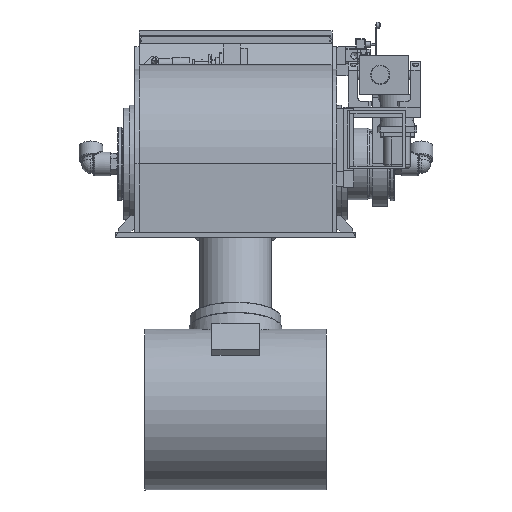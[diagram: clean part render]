
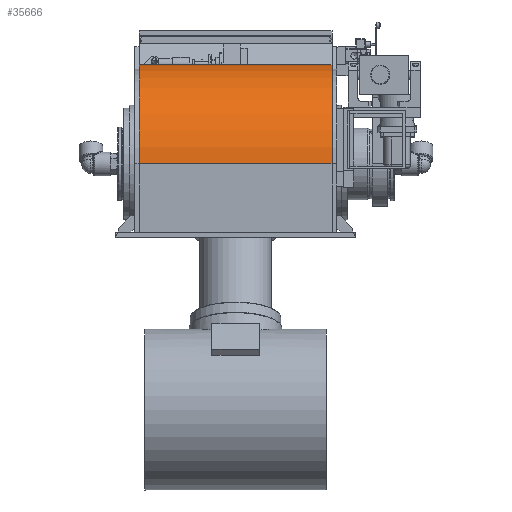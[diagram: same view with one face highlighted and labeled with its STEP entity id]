
A CAD part, front view. The second image highlights one B-rep face of the part: STEP entity #35666.
In plain terms, the highlighted cylindrical face has radius 263 mm (diameter 526 mm), a partial arc.
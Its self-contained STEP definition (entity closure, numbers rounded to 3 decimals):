
#3358=FACE_OUTER_BOUND('',#5551,.T.);
#5551=EDGE_LOOP('',(#27378,#27379,#27380,#27381));
#8054=LINE('',#56224,#11132);
#8055=LINE('',#56228,#11133);
#11132=VECTOR('',#44909,10.);
#11133=VECTOR('',#44912,10.);
#13686=CIRCLE('',#38484,263.);
#13687=CIRCLE('',#38485,263.);
#15809=VERTEX_POINT('',#56222);
#15810=VERTEX_POINT('',#56223);
#15811=VERTEX_POINT('',#56225);
#15812=VERTEX_POINT('',#56227);
#19917=EDGE_CURVE('',#15809,#15810,#8054,.T.);
#19918=EDGE_CURVE('',#15811,#15809,#13686,.T.);
#19919=EDGE_CURVE('',#15811,#15812,#8055,.T.);
#19920=EDGE_CURVE('',#15810,#15812,#13687,.T.);
#27378=ORIENTED_EDGE('',*,*,#19917,.F.);
#27379=ORIENTED_EDGE('',*,*,#19918,.F.);
#27380=ORIENTED_EDGE('',*,*,#19919,.T.);
#27381=ORIENTED_EDGE('',*,*,#19920,.F.);
#32693=CYLINDRICAL_SURFACE('',#38483,263.);
#35666=ADVANCED_FACE('',(#3358),#32693,.T.);
#38483=AXIS2_PLACEMENT_3D('',#56221,#44907,#44908);
#38484=AXIS2_PLACEMENT_3D('',#56226,#44910,#44911);
#38485=AXIS2_PLACEMENT_3D('',#56229,#44913,#44914);
#44907=DIRECTION('center_axis',(-1.,0.,0.));
#44908=DIRECTION('ref_axis',(0.,-1.,0.));
#44909=DIRECTION('',(1.,0.,0.));
#44910=DIRECTION('center_axis',(-1.,0.,0.));
#44911=DIRECTION('ref_axis',(0.,-1.,0.));
#44912=DIRECTION('',(1.,0.,0.));
#44913=DIRECTION('center_axis',(1.,0.,0.));
#44914=DIRECTION('ref_axis',(0.,0.,
1.));
#56221=CARTESIAN_POINT('Origin',(377.081,-27.37,190.));
#56222=CARTESIAN_POINT('',(122.081,-27.37,453.));
#56223=CARTESIAN_POINT('',(632.081,-27.37,453.));
#56224=CARTESIAN_POINT('',(377.081,-27.37,453.));
#56225=CARTESIAN_POINT('',(122.081,-290.37,190.));
#56226=CARTESIAN_POINT('Origin',(122.081,-27.37,190.));
#56227=CARTESIAN_POINT('',(632.081,-290.37,190.));
#56228=CARTESIAN_POINT('',(377.081,-290.37,190.));
#56229=CARTESIAN_POINT('Origin',(632.081,-27.37,190.));
